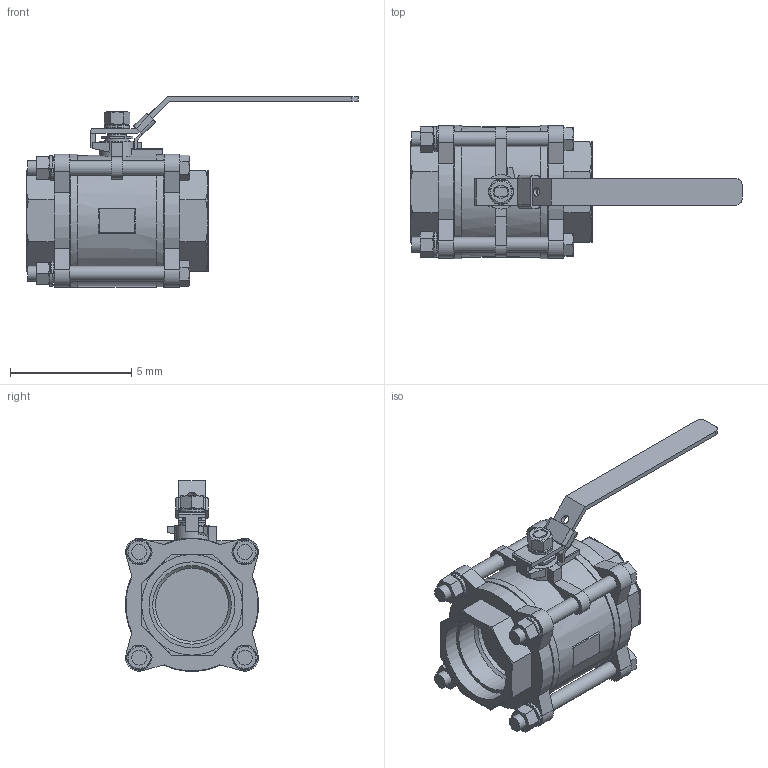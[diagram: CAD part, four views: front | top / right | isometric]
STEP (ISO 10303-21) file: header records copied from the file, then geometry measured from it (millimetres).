
FILE_DESCRIPTION(('Open CASCADE Model'),'2;1');
FILE_NAME('Open CASCADE Shape Model','2022-09-22T13:29:23',('Author'),( 'Open CASCADE'),'Open CASCADE STEP processor 7.3','Open CASCADE 7.3' ,'Unknown');
FILE_SCHEMA(('AUTOMOTIVE_DESIGN { 1 0 10303 214 1 1 1 1 }'));
Length unit declared in the file: millimetre
Products named in the file (40): Open CASCADE STEP translator 7.3 1; Open CASCADE STEP translator 7.3 1.1; Open CASCADE STEP translator 7.3 1.2; Open CASCADE STEP translator 7.3 1.2.1; Open CASCADE STEP translator 7.3 1.2.2; Open CASCADE STEP translator 7.3 1.2.3; Open CASCADE STEP translator 7.3 1.2.4; Open CASCADE STEP translator 7.3 1.2.5; Open CASCADE STEP translator 7.3 1.2.6; Open CASCADE STEP translator 7.3 1.2.7; Open CASCADE STEP translator 7.3 1.2.8; Open CASCADE STEP translator 7.3 1.2.9; Open CASCADE STEP translator 7.3 1.3; Open CASCADE STEP translator 7.3 1.4; Open CASCADE STEP translator 7.3 1.5; Open CASCADE STEP translator 7.3 1.6; Open CASCADE STEP translator 7.3 1.7; Open CASCADE STEP translator 7.3 1.8; Open CASCADE STEP translator 7.3 1.9; Open CASCADE STEP translator 7.3 1.10; Open CASCADE STEP translator 7.3 1.11; Open CASCADE STEP translator 7.3 1.12; Open CASCADE STEP translator 7.3 1.13; Open CASCADE STEP translator 7.3 1.14; Open CASCADE STEP translator 7.3 1.15; Open CASCADE STEP translator 7.3 1.16; Open CASCADE STEP translator 7.3 1.17; Open CASCADE STEP translator 7.3 1.18; Open CASCADE STEP translator 7.3 1.19; Open CASCADE STEP translator 7.3 1.20; Open CASCADE STEP translator 7.3 1.21; Open CASCADE STEP translator 7.3 1.21.1; Open CASCADE STEP translator 7.3 1.21.2; Open CASCADE STEP translator 7.3 1.21.3; Open CASCADE STEP translator 7.3 1.21.4; Open CASCADE STEP translator 7.3 1.21.5; Open CASCADE STEP translator 7.3 1.21.6; Open CASCADE STEP translator 7.3 1.21.7; Open CASCADE STEP translator 7.3 1.21.8; Open CASCADE STEP translator 7.3 1.21.9
Assembly tree (39 placements, depth 3):
  Open CASCADE STEP translator 7.3 1
    Open CASCADE STEP translator 7.3 1.1
    Open CASCADE STEP translator 7.3 1.2
      Open CASCADE STEP translator 7.3 1.2.1
      Open CASCADE STEP translator 7.3 1.2.2
      Open CASCADE STEP translator 7.3 1.2.3
      Open CASCADE STEP translator 7.3 1.2.4
      Open CASCADE STEP translator 7.3 1.2.5
      Open CASCADE STEP translator 7.3 1.2.6
      Open CASCADE STEP translator 7.3 1.2.7
      Open CASCADE STEP translator 7.3 1.2.8
      Open CASCADE STEP translator 7.3 1.2.9
    Open CASCADE STEP translator 7.3 1.3
    Open CASCADE STEP translator 7.3 1.4
    Open CASCADE STEP translator 7.3 1.5
    Open CASCADE STEP translator 7.3 1.6
    Open CASCADE STEP translator 7.3 1.7
    Open CASCADE STEP translator 7.3 1.8
    Open CASCADE STEP translator 7.3 1.9
    Open CASCADE STEP translator 7.3 1.10
    Open CASCADE STEP translator 7.3 1.11
    Open CASCADE STEP translator 7.3 1.12
    Open CASCADE STEP translator 7.3 1.13
    Open CASCADE STEP translator 7.3 1.14
    Open CASCADE STEP translator 7.3 1.15
    Open CASCADE STEP translator 7.3 1.16
    Open CASCADE STEP translator 7.3 1.17
    Open CASCADE STEP translator 7.3 1.18
    Open CASCADE STEP translator 7.3 1.19
    Open CASCADE STEP translator 7.3 1.20
    Open CASCADE STEP translator 7.3 1.21
      Open CASCADE STEP translator 7.3 1.21.1
      Open CASCADE STEP translator 7.3 1.21.2
      Open CASCADE STEP translator 7.3 1.21.3
      Open CASCADE STEP translator 7.3 1.21.4
      Open CASCADE STEP translator 7.3 1.21.5
      Open CASCADE STEP translator 7.3 1.21.6
      Open CASCADE STEP translator 7.3 1.21.7
      Open CASCADE STEP translator 7.3 1.21.8
      Open CASCADE STEP translator 7.3 1.21.9
Bounding box: 13.71 x 5.51 x 7.89 mm (x, y, z)
Volume: 141.8 mm3; surface area: 444.1 mm2
Topology: 37 solids, 37 shells, 501 faces, 1155 edges, 729 vertices
Faces by surface type: plane 302, cone 91, cylinder 68, torus 40
Full cylindrical faces by diameter (mm): 0.352 x1, 0.54 x5, 0.619 x4, 0.65 x8, 0.66 x2, 0.747 x1, 0.77 x1, 1.02 x1, 1.425 x1, 3.015 x2, 3.25 x2, 3.548 x2, 5.508 x2
Entity records: 33938 total; most frequent: CARTESIAN_POINT 10587, DIRECTION 4272, ORIENTED_EDGE 2310, PCURVE 2310, DEFINITIONAL_REPRESENTATION 2310, LINE 2285, VECTOR 2285, EDGE_CURVE 1155
